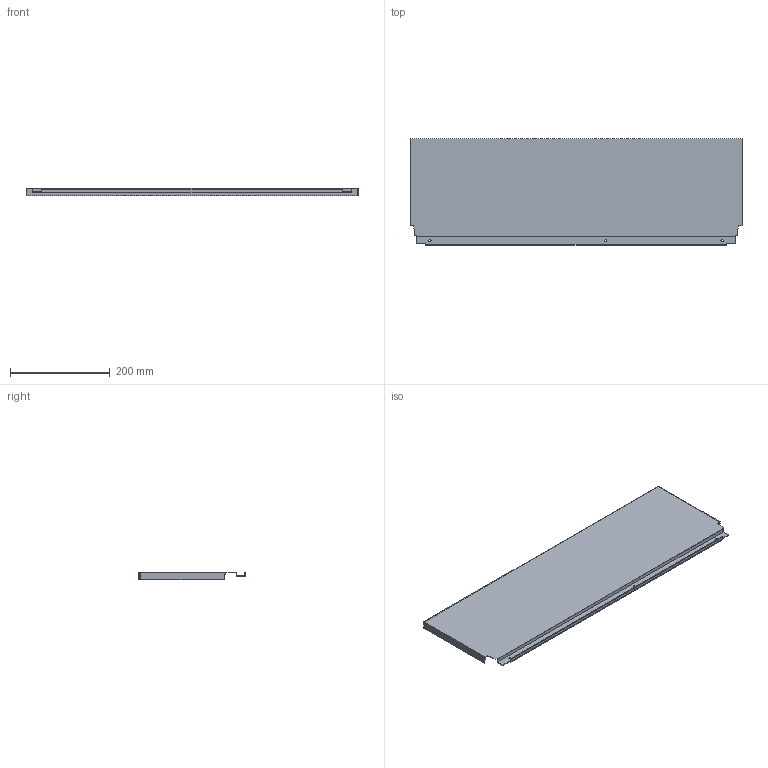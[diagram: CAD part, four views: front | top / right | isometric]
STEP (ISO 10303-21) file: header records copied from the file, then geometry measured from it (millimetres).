
FILE_DESCRIPTION (( 'STEP AP214' ), '1' );
FILE_NAME ('_DWD_XP Stahlrückwand_H214_KAB750_S16.step', '2010-07-08T13:02:50', ( 'grass' ), ( '' ), 'SwSTEP 2.0', 'SolidWorks 2010', '' );
FILE_SCHEMA (( 'AUTOMOTIVE_DESIGN' ));
Length unit declared in the file: millimetre
Products named in the file (1): _DWD_XP Stahlrückwand_H214_KAB750_S16
Bounding box: 667 x 214.58 x 16 mm (x, y, z)
Volume: 158787.4 mm3; surface area: 335030.7 mm2
Topology: 1 solids, 1 shells, 46 faces, 132 edges, 88 vertices
Faces by surface type: plane 40, cylinder 6
Entity records: 1534 total; most frequent: CARTESIAN_POINT 267, ORIENTED_EDGE 264, DIRECTION 238, EDGE_CURVE 132, VECTOR 120, LINE 120, VERTEX_POINT 88, AXIS2_PLACEMENT_3D 59
